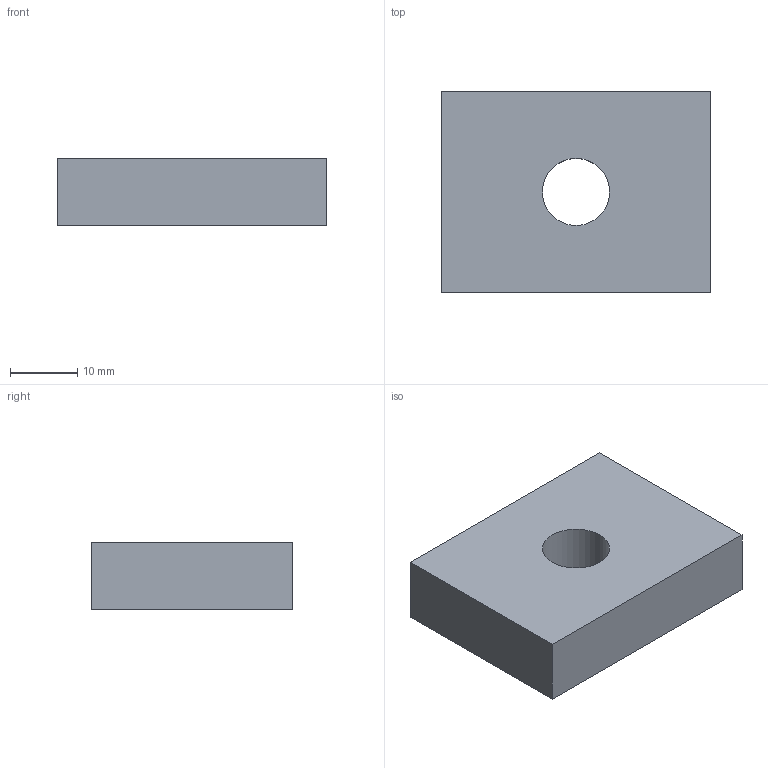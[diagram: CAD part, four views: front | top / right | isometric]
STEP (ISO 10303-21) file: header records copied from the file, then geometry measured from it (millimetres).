
FILE_DESCRIPTION(('pmix synthetic fixture: the baseline plate with the hole bored from 8mm to 10mm, and nothing else changed'),'2;1');
FILE_NAME('plate_hole_larger.stp','2026-09-09T00:00:00',('pmix'),('pmix'),'pmix synthetic','pmix','');
FILE_SCHEMA(('AP242_MANAGED_MODEL_BASED_3D_ENGINEERING_MIM_LF { 1 0 10303 442 3 1 4 }'));
Length unit declared in the file: millimetre
Products named in the file (1): SYN-PLATE
Bounding box: 40 x 30 x 10 mm (x, y, z)
Volume: 11214.6 mm3; surface area: 3957.1 mm2
Topology: 1 solids, 1 shells, 7 faces, 15 edges, 10 vertices
Faces by surface type: plane 6, cylinder 1
Full cylindrical faces by diameter (mm): 10 x1
Entity records: 194 total; most frequent: CARTESIAN_POINT 31, DIRECTION 30, ORIENTED_EDGE 28, EDGE_CURVE 14, VECTOR 12, LINE 12, VERTEX_POINT 10, EDGE_LOOP 10
